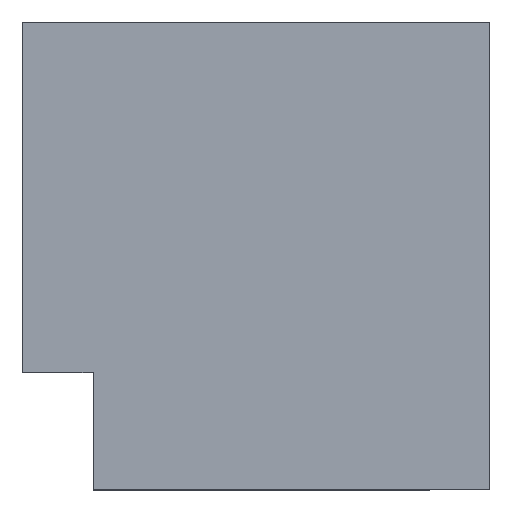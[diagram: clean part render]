
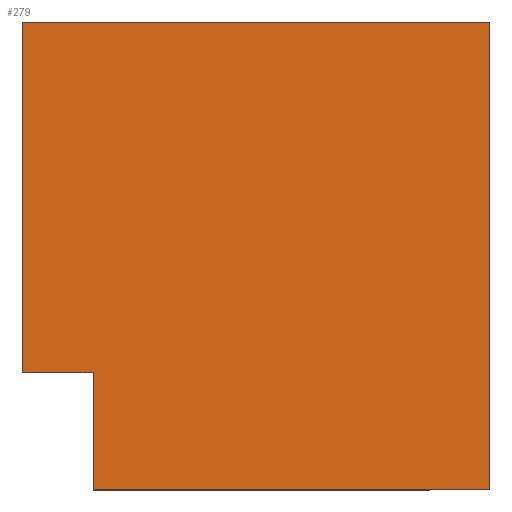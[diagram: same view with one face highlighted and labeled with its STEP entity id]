
A CAD part, top view. The second image highlights one B-rep face of the part: STEP entity #279.
In plain terms, the highlighted planar face has unit normal (0, 0, 1).
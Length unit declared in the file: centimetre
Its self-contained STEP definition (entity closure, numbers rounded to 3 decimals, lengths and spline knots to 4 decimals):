
#9 = CARTESIAN_POINT ( 'NONE',  ( 0., 1000., 1000. ) ) ;
#11 = VECTOR ( 'NONE', #300, 100. ) ;
#24 = VERTEX_POINT ( 'NONE', #131 ) ;
#30 = DIRECTION ( 'NONE',  ( 1., 0., 0. ) ) ;
#31 = DIRECTION ( 'NONE',  ( 0., -1., 0. ) ) ;
#32 = CARTESIAN_POINT ( 'NONE',  ( 0., 250.6926, 1000. ) ) ;
#36 = AXIS2_PLACEMENT_3D ( 'NONE', #253, #356, #287 ) ;
#41 = VECTOR ( 'NONE', #30, 100. ) ;
#43 = DIRECTION ( 'NONE',  ( 0., -1., 0. ) ) ;
#57 = ORIENTED_EDGE ( 'NONE', *, *, #267, .T. ) ;
#73 = LINE ( 'NONE', #358, #41 ) ;
#104 = FACE_OUTER_BOUND ( 'NONE', #303, .T. ) ;
#106 = EDGE_CURVE ( 'NONE', #132, #243, #252, .T. ) ;
#107 = LINE ( 'NONE', #320, #265 ) ;
#112 = LINE ( 'NONE', #388, #178 ) ;
#131 = CARTESIAN_POINT ( 'NONE',  ( 151.3162, 0., 1000. ) ) ;
#132 = VERTEX_POINT ( 'NONE', #437 ) ;
#166 = ORIENTED_EDGE ( 'NONE', *, *, #106, .T. ) ;
#167 = EDGE_CURVE ( 'NONE', #24, #384, #73, .T. ) ;
#178 = VECTOR ( 'NONE', #318, 100. ) ;
#191 = ORIENTED_EDGE ( 'NONE', *, *, #433, .T. ) ;
#215 = CARTESIAN_POINT ( 'NONE',  ( 151.3162, 250.6926, 1000. ) ) ;
#219 = PLANE ( 'NONE',  #36 ) ;
#220 = EDGE_CURVE ( 'NONE', #384, #295, #107, .T. ) ;
#235 = ORIENTED_EDGE ( 'NONE', *, *, #220, .T. ) ;
#243 = VERTEX_POINT ( 'NONE', #32 ) ;
#248 = CARTESIAN_POINT ( 'NONE',  ( 0., 1000., 1000. ) ) ;
#252 = LINE ( 'NONE', #248, #465 ) ;
#253 = CARTESIAN_POINT ( 'NONE',  ( 0., 0., 1000. ) ) ;
#254 = VERTEX_POINT ( 'NONE', #215 ) ;
#265 = VECTOR ( 'NONE', #420, 100. ) ;
#267 = EDGE_CURVE ( 'NONE', #243, #254, #112, .T. ) ;
#271 = CARTESIAN_POINT ( 'NONE',  ( 1000., 0., 1000. ) ) ;
#279 = ADVANCED_FACE ( 'NONE', ( #104 ), #219, .T. ) ;
#287 = DIRECTION ( 'NONE',  ( 1., 0., 0. ) ) ;
#295 = VERTEX_POINT ( 'NONE', #363 ) ;
#300 = DIRECTION ( 'NONE',  ( -1., 0., 0. ) ) ;
#303 = EDGE_LOOP ( 'NONE', ( #359, #417, #235, #191, #166, #57 ) ) ;
#318 = DIRECTION ( 'NONE',  ( 1., 0., 0. ) ) ;
#320 = CARTESIAN_POINT ( 'NONE',  ( 1000., 1000., 1000. ) ) ;
#333 = CARTESIAN_POINT ( 'NONE',  ( 151.3162, 0., 1000. ) ) ;
#335 = LINE ( 'NONE', #9, #11 ) ;
#340 = EDGE_CURVE ( 'NONE', #254, #24, #434, .T. ) ;
#356 = DIRECTION ( 'NONE',  ( 0., 0., 1. ) ) ;
#358 = CARTESIAN_POINT ( 'NONE',  ( 0., 0., 1000. ) ) ;
#359 = ORIENTED_EDGE ( 'NONE', *, *, #340, .T. ) ;
#363 = CARTESIAN_POINT ( 'NONE',  ( 1000., 1000., 1000. ) ) ;
#384 = VERTEX_POINT ( 'NONE', #271 ) ;
#385 = VECTOR ( 'NONE', #43, 100. ) ;
#388 = CARTESIAN_POINT ( 'NONE',  ( 0., 250.6926, 1000. ) ) ;
#417 = ORIENTED_EDGE ( 'NONE', *, *, #167, .T. ) ;
#420 = DIRECTION ( 'NONE',  ( 0., 1., 0. ) ) ;
#433 = EDGE_CURVE ( 'NONE', #295, #132, #335, .T. ) ;
#434 = LINE ( 'NONE', #333, #385 ) ;
#437 = CARTESIAN_POINT ( 'NONE',  ( 0., 1000., 1000. ) ) ;
#465 = VECTOR ( 'NONE', #31, 100. ) ;
